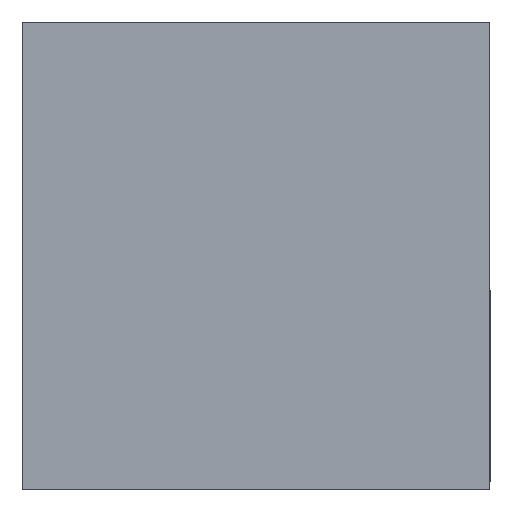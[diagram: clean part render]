
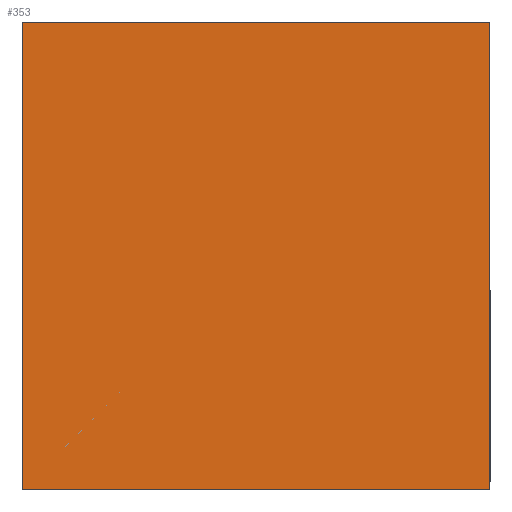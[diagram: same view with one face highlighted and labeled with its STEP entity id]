
A CAD part, left-side view. The second image highlights one B-rep face of the part: STEP entity #353.
In plain terms, the highlighted planar face has unit normal (-1, 0, 0).
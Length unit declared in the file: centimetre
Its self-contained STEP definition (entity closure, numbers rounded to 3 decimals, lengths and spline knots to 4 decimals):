
#17 = VERTEX_POINT ( 'NONE', #931 ) ;
#45 = ORIENTED_EDGE ( 'NONE', *, *, #589, .T. ) ;
#64 = CARTESIAN_POINT ( 'NONE',  ( 0., 0., 1000. ) ) ;
#76 = EDGE_CURVE ( 'NONE', #278, #537, #190, .T. ) ;
#81 = CARTESIAN_POINT ( 'NONE',  ( 0., 1000., 1000. ) ) ;
#139 = LINE ( 'NONE', #148, #491 ) ;
#148 = CARTESIAN_POINT ( 'NONE',  ( 0., 1000., 1000. ) ) ;
#190 = LINE ( 'NONE', #896, #867 ) ;
#203 = DIRECTION ( 'NONE',  ( 0., 0., -1. ) ) ;
#209 = EDGE_CURVE ( 'NONE', #17, #537, #688, .T. ) ;
#212 = ORIENTED_EDGE ( 'NONE', *, *, #76, .T. ) ;
#278 = VERTEX_POINT ( 'NONE', #398 ) ;
#289 = DIRECTION ( 'NONE',  ( 0., 0., -1. ) ) ;
#315 = EDGE_CURVE ( 'NONE', #940, #17, #941, .T. ) ;
#353 = ADVANCED_FACE ( 'NONE', ( #726 ), #642, .F. ) ;
#398 = CARTESIAN_POINT ( 'NONE',  ( 0., 1000., 0. ) ) ;
#404 = DIRECTION ( 'NONE',  ( 1., 0., 0. ) ) ;
#460 = CARTESIAN_POINT ( 'NONE',  ( 0., 1000., 1000. ) ) ;
#489 = VECTOR ( 'NONE', #289, 100. ) ;
#491 = VECTOR ( 'NONE', #203, 100. ) ;
#502 = EDGE_LOOP ( 'NONE', ( #212, #554, #971, #45 ) ) ;
#523 = CARTESIAN_POINT ( 'NONE',  ( 0., 1000., 1000. ) ) ;
#537 = VERTEX_POINT ( 'NONE', #699 ) ;
#554 = ORIENTED_EDGE ( 'NONE', *, *, #209, .F. ) ;
#581 = DIRECTION ( 'NONE',  ( 0., -1., 0. ) ) ;
#589 = EDGE_CURVE ( 'NONE', #940, #278, #139, .T. ) ;
#609 = VECTOR ( 'NONE', #944, 100. ) ;
#642 = PLANE ( 'NONE',  #694 ) ;
#688 = LINE ( 'NONE', #64, #489 ) ;
#694 = AXIS2_PLACEMENT_3D ( 'NONE', #460, #404, #1012 ) ;
#699 = CARTESIAN_POINT ( 'NONE',  ( 0., 0., 0. ) ) ;
#726 = FACE_OUTER_BOUND ( 'NONE', #502, .T. ) ;
#867 = VECTOR ( 'NONE', #581, 100. ) ;
#896 = CARTESIAN_POINT ( 'NONE',  ( 0., 1000., 0. ) ) ;
#931 = CARTESIAN_POINT ( 'NONE',  ( 0., 0., 1000. ) ) ;
#940 = VERTEX_POINT ( 'NONE', #523 ) ;
#941 = LINE ( 'NONE', #81, #609 ) ;
#944 = DIRECTION ( 'NONE',  ( 0., -1., 0. ) ) ;
#971 = ORIENTED_EDGE ( 'NONE', *, *, #315, .F. ) ;
#1012 = DIRECTION ( 'NONE',  ( 0., 0., -1. ) ) ;
